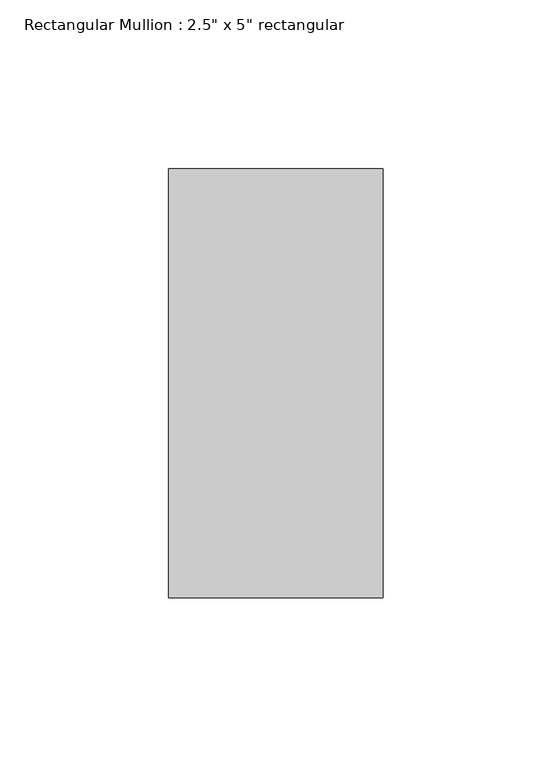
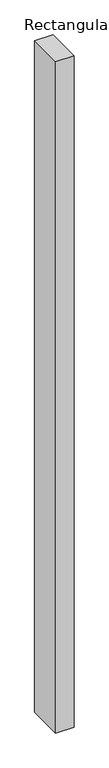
"""IFC4 building model written with IfcOpenShell, lengths in millimetres: member geometry."""

from ifc_helpers import new_model, si_unit, frame, origin, place, context, project, spatial, polyline, outline, extrude, source, transform, mapped, element, save


def member_6d1da0dd(model_context):
    return source(origin(), model_context, "Body", "SweptSolid", [
        extrude(outline(polyline([(31.75, 63.5), (31.75, -63.5), (-31.75, -63.5), (-31.75, 63.5), (31.75, 63.5)])), frame((0.0, 0.0, -2476.4999998), z_axis=(0.0, 0.0, 1.0), x_axis=(1.0, 0.0, 0.0)), (0.0, 0.0, 1.0), 2476.4999998),
    ])


if __name__ == "__main__":
    model = new_model("IFC4")
    model_context = context("Model", 3, world=origin())
    ifc_project = project(units=[si_unit("LENGTHUNIT", "METRE", prefix="MILLI")], contexts=[model_context])
    site = spatial("IfcSite", under=ifc_project)
    building = spatial("IfcBuilding", under=site)
    placement = place(None, origin())
    member_shape = member_6d1da0dd(model_context)
    element("IfcMember", 1, ObjectType="Rectangular Mullion : 2.5\" x 5\" rectangular", at=placement, inside=building, context=model_context, shape_type="MappedRepresentation", body=[
        mapped(member_shape, transform((0.0, 0.0, 0.0), x_axis=(1.0, 0.0, 0.0), y_axis=(0.0, 1.0, 0.0), z_axis=(0.0, 0.0, 1.0))),
    ])
    save(model, "model.ifc")
